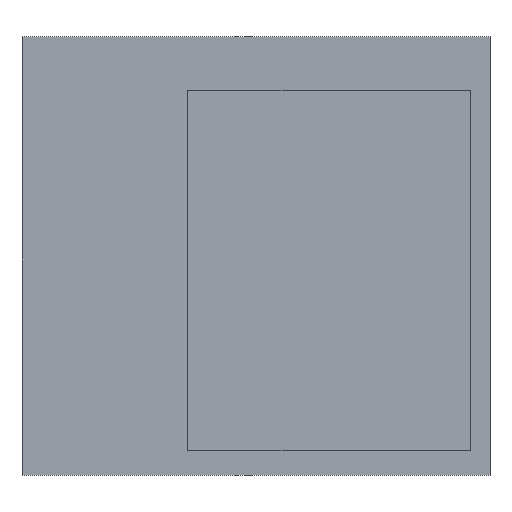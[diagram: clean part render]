
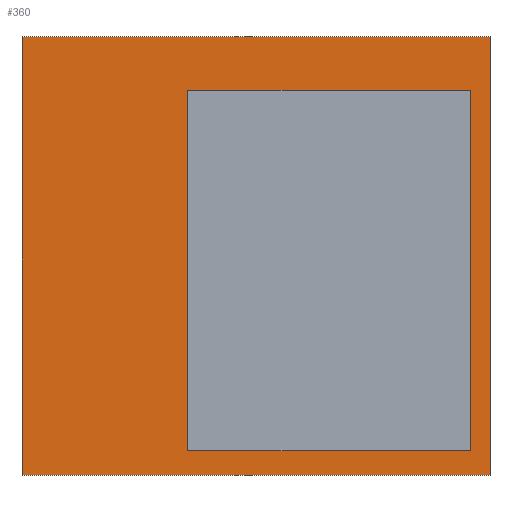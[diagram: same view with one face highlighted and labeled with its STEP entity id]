
A CAD part, top view. The second image highlights one B-rep face of the part: STEP entity #360.
In plain terms, the highlighted planar face has unit normal (0, 0, 1).
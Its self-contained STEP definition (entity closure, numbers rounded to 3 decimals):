
#46 = VERTEX_POINT('',#47);
#47 = CARTESIAN_POINT('',(-48.,-45.,0.8));
#54 = PLANE('',#55);
#55 = AXIS2_PLACEMENT_3D('',#56,#57,#58);
#56 = CARTESIAN_POINT('',(-48.,-45.,-0.8));
#57 = DIRECTION('',(1.,0.,-0.));
#58 = DIRECTION('',(0.,0.,1.));
#66 = PLANE('',#67);
#67 = AXIS2_PLACEMENT_3D('',#68,#69,#70);
#68 = CARTESIAN_POINT('',(-48.,-45.,-0.8));
#69 = DIRECTION('',(-0.,1.,0.));
#70 = DIRECTION('',(0.,0.,1.));
#107 = VERTEX_POINT('',#108);
#108 = CARTESIAN_POINT('',(-48.,45.,0.8));
#122 = PLANE('',#123);
#123 = AXIS2_PLACEMENT_3D('',#124,#125,#126);
#124 = CARTESIAN_POINT('',(-48.,45.,-0.8));
#125 = DIRECTION('',(-0.,1.,0.));
#126 = DIRECTION('',(0.,0.,1.));
#134 = EDGE_CURVE('',#46,#107,#135,.T.);
#135 = SURFACE_CURVE('',#136,(#140,#147),.PCURVE_S1.);
#136 = LINE('',#137,#138);
#137 = CARTESIAN_POINT('',(-48.,-45.,0.8));
#138 = VECTOR('',#139,1.);
#139 = DIRECTION('',(-0.,1.,0.));
#140 = PCURVE('',#54,#141);
#141 = DEFINITIONAL_REPRESENTATION('',(#142),#146);
#142 = LINE('',#143,#144);
#143 = CARTESIAN_POINT('',(1.6,0.));
#144 = VECTOR('',#145,1.);
#145 = DIRECTION('',(0.,-1.));
#146 = ( GEOMETRIC_REPRESENTATION_CONTEXT(2) 
PARAMETRIC_REPRESENTATION_CONTEXT() REPRESENTATION_CONTEXT('2D SPACE',''
  ) );
#147 = PCURVE('',#148,#153);
#148 = PLANE('',#149);
#149 = AXIS2_PLACEMENT_3D('',#150,#151,#152);
#150 = CARTESIAN_POINT('',(-48.,-45.,0.8));
#151 = DIRECTION('',(0.,0.,1.));
#152 = DIRECTION('',(1.,0.,-0.));
#153 = DEFINITIONAL_REPRESENTATION('',(#154),#158);
#154 = LINE('',#155,#156);
#155 = CARTESIAN_POINT('',(0.,0.));
#156 = VECTOR('',#157,1.);
#157 = DIRECTION('',(0.,1.));
#158 = ( GEOMETRIC_REPRESENTATION_CONTEXT(2) 
PARAMETRIC_REPRESENTATION_CONTEXT() REPRESENTATION_CONTEXT('2D SPACE',''
  ) );
#166 = VERTEX_POINT('',#167);
#167 = CARTESIAN_POINT('',(48.,-45.,0.8));
#174 = PLANE('',#175);
#175 = AXIS2_PLACEMENT_3D('',#176,#177,#178);
#176 = CARTESIAN_POINT('',(48.,-45.,-0.8));
#177 = DIRECTION('',(1.,0.,-0.));
#178 = DIRECTION('',(0.,0.,1.));
#217 = VERTEX_POINT('',#218);
#218 = CARTESIAN_POINT('',(48.,45.,0.8));
#239 = EDGE_CURVE('',#166,#217,#240,.T.);
#240 = SURFACE_CURVE('',#241,(#245,#252),.PCURVE_S1.);
#241 = LINE('',#242,#243);
#242 = CARTESIAN_POINT('',(48.,-45.,0.8));
#243 = VECTOR('',#244,1.);
#244 = DIRECTION('',(-0.,1.,0.));
#245 = PCURVE('',#174,#246);
#246 = DEFINITIONAL_REPRESENTATION('',(#247),#251);
#247 = LINE('',#248,#249);
#248 = CARTESIAN_POINT('',(1.6,0.));
#249 = VECTOR('',#250,1.);
#250 = DIRECTION('',(0.,-1.));
#251 = ( GEOMETRIC_REPRESENTATION_CONTEXT(2) 
PARAMETRIC_REPRESENTATION_CONTEXT() REPRESENTATION_CONTEXT('2D SPACE',''
  ) );
#252 = PCURVE('',#148,#253);
#253 = DEFINITIONAL_REPRESENTATION('',(#254),#258);
#254 = LINE('',#255,#256);
#255 = CARTESIAN_POINT('',(96.,0.));
#256 = VECTOR('',#257,1.);
#257 = DIRECTION('',(0.,1.));
#258 = ( GEOMETRIC_REPRESENTATION_CONTEXT(2) 
PARAMETRIC_REPRESENTATION_CONTEXT() REPRESENTATION_CONTEXT('2D SPACE',''
  ) );
#285 = EDGE_CURVE('',#46,#166,#286,.T.);
#286 = SURFACE_CURVE('',#287,(#291,#298),.PCURVE_S1.);
#287 = LINE('',#288,#289);
#288 = CARTESIAN_POINT('',(-48.,-45.,0.8));
#289 = VECTOR('',#290,1.);
#290 = DIRECTION('',(1.,0.,-0.));
#291 = PCURVE('',#66,#292);
#292 = DEFINITIONAL_REPRESENTATION('',(#293),#297);
#293 = LINE('',#294,#295);
#294 = CARTESIAN_POINT('',(1.6,0.));
#295 = VECTOR('',#296,1.);
#296 = DIRECTION('',(0.,1.));
#297 = ( GEOMETRIC_REPRESENTATION_CONTEXT(2) 
PARAMETRIC_REPRESENTATION_CONTEXT() REPRESENTATION_CONTEXT('2D SPACE',''
  ) );
#298 = PCURVE('',#148,#299);
#299 = DEFINITIONAL_REPRESENTATION('',(#300),#304);
#300 = LINE('',#301,#302);
#301 = CARTESIAN_POINT('',(0.,0.));
#302 = VECTOR('',#303,1.);
#303 = DIRECTION('',(1.,0.));
#304 = ( GEOMETRIC_REPRESENTATION_CONTEXT(2) 
PARAMETRIC_REPRESENTATION_CONTEXT() REPRESENTATION_CONTEXT('2D SPACE',''
  ) );
#332 = EDGE_CURVE('',#107,#217,#333,.T.);
#333 = SURFACE_CURVE('',#334,(#338,#345),.PCURVE_S1.);
#334 = LINE('',#335,#336);
#335 = CARTESIAN_POINT('',(-48.,45.,0.8));
#336 = VECTOR('',#337,1.);
#337 = DIRECTION('',(1.,0.,-0.));
#338 = PCURVE('',#122,#339);
#339 = DEFINITIONAL_REPRESENTATION('',(#340),#344);
#340 = LINE('',#341,#342);
#341 = CARTESIAN_POINT('',(1.6,0.));
#342 = VECTOR('',#343,1.);
#343 = DIRECTION('',(0.,1.));
#344 = ( GEOMETRIC_REPRESENTATION_CONTEXT(2) 
PARAMETRIC_REPRESENTATION_CONTEXT() REPRESENTATION_CONTEXT('2D SPACE',''
  ) );
#345 = PCURVE('',#148,#346);
#346 = DEFINITIONAL_REPRESENTATION('',(#347),#351);
#347 = LINE('',#348,#349);
#348 = CARTESIAN_POINT('',(0.,90.));
#349 = VECTOR('',#350,1.);
#350 = DIRECTION('',(1.,0.));
#351 = ( GEOMETRIC_REPRESENTATION_CONTEXT(2) 
PARAMETRIC_REPRESENTATION_CONTEXT() REPRESENTATION_CONTEXT('2D SPACE',''
  ) );
#360 = ADVANCED_FACE('',(#361),#148,.T.);
#361 = FACE_BOUND('',#362,.T.);
#362 = EDGE_LOOP('',(#363,#364,#365,#366));
#363 = ORIENTED_EDGE('',*,*,#134,.F.);
#364 = ORIENTED_EDGE('',*,*,#285,.T.);
#365 = ORIENTED_EDGE('',*,*,#239,.T.);
#366 = ORIENTED_EDGE('',*,*,#332,.F.);
